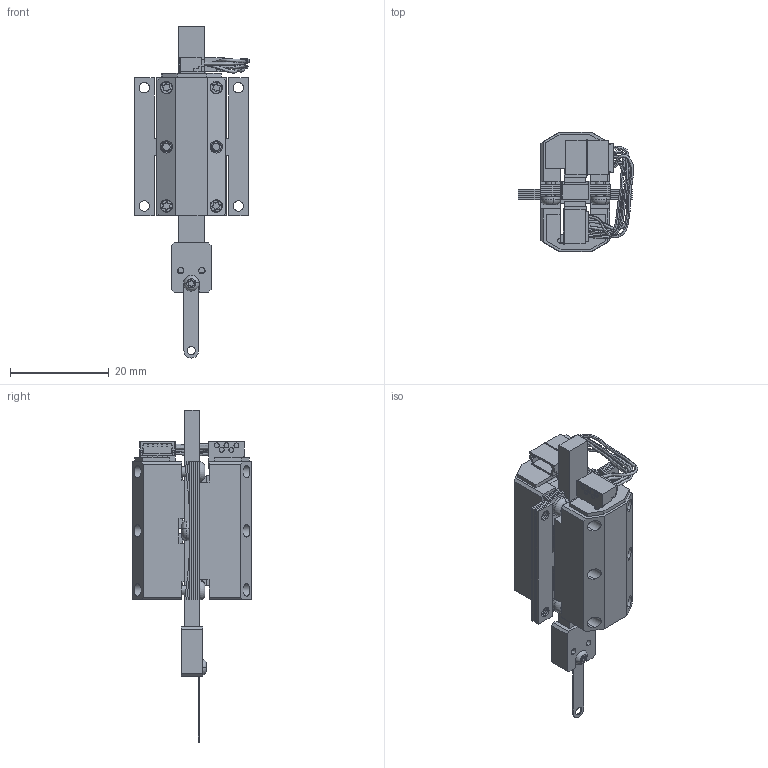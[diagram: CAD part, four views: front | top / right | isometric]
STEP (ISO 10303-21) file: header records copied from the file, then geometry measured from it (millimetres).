
FILE_DESCRIPTION (( 'STEP AP214' ), '1' );
FILE_NAME ('LT4050A-050D1A00-PiezoMotor.STEP', '2017-08-15T11:32:07', ( '' ), ( '' ), 'SwSTEP 2.0', 'SolidWorks 2016', '' );
FILE_SCHEMA (( 'AUTOMOTIVE_DESIGN' ));
Length unit declared in the file: millimetre
Products named in the file (3): LT4050A_DriveRod_050D1D2-PiezoMotor; LT4050A-xxxxxA00-PiezoMotor; LT4050A-050D1A00-PiezoMotor
Assembly tree (2 placements, depth 2):
  LT4050A-050D1A00-PiezoMotor
    LT4050A-xxxxxA00-PiezoMotor
    LT4050A_DriveRod_050D1D2-PiezoMotor
Bounding box: 23.37 x 24.18 x 67.35 mm (x, y, z)
Volume: 8232.4 mm3; surface area: 14702.2 mm2
Topology: 50 solids, 50 shells, 1466 faces, 3822 edges, 2476 vertices
Faces by surface type: plane 1031, cylinder 381, cone 30, torus 14, bspline 10
Entity records: 49913 total; most frequent: CARTESIAN_POINT 11261, ORIENTED_EDGE 7644, DIRECTION 7518, EDGE_CURVE 3822, LINE 2980, VECTOR 2980, VERTEX_POINT 2476, AXIS2_PLACEMENT_3D 2269
